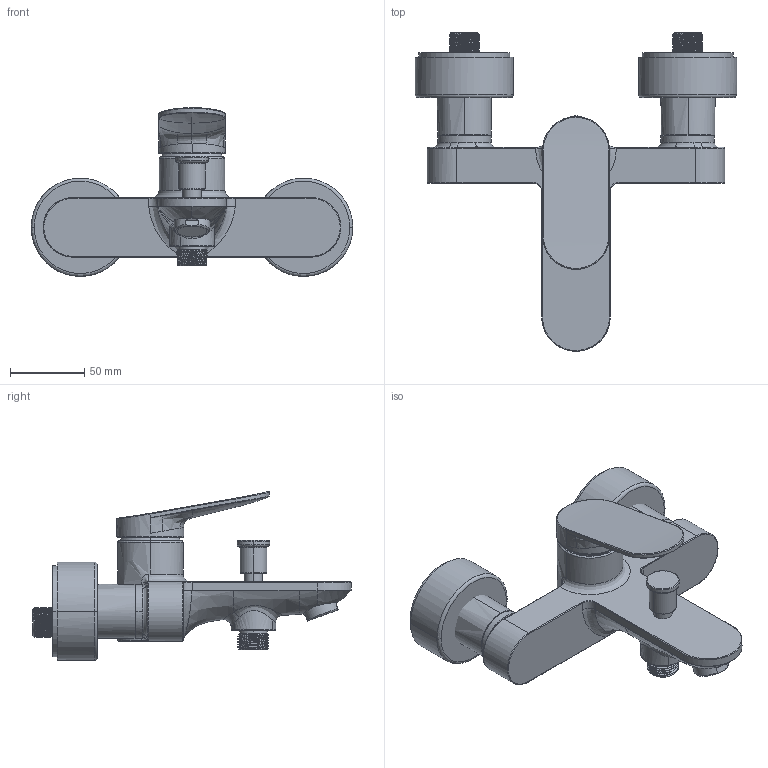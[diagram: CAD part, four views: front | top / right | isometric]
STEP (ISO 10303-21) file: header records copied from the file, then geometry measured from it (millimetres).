
FILE_DESCRIPTION(/* description */ (''),/* implementation_level */ '2;1');
FILE_NAME(/* name */ 'WA5230000010_WA5230000004_WA5230000034_WA5230000046_WA5230000070',/* time_stamp */ '2023-01-11T11:50:14+01:00',/* author */ (''),/* organization */ (''),/* preprocessor_version */ 'ST-DEVELOPER v15',/* originating_system */ '',/* authorisation */ '');
FILE_SCHEMA (('AUTOMOTIVE_DESIGN'));
Products named in the file (1): Document
Bounding box: 216 x 214 x 113.35 mm (x, y, z)
Volume: 413277.6 mm3; surface area: 115472 mm2
Topology: 8 solids, 16 shells, 4411 faces, 12891 edges, 8523 vertices
Faces by surface type: plane 2749, bspline 1662
Entity records: 189516 total; most frequent: CARTESIAN_POINT 108366, ORIENTED_EDGE 25747, EDGE_CURVE 12888, B_SPLINE_CURVE_WITH_KNOTS 12314, VERTEX_POINT 8523, EDGE_LOOP 4442, ADVANCED_FACE 4411, FACE_OUTER_BOUND 4411
